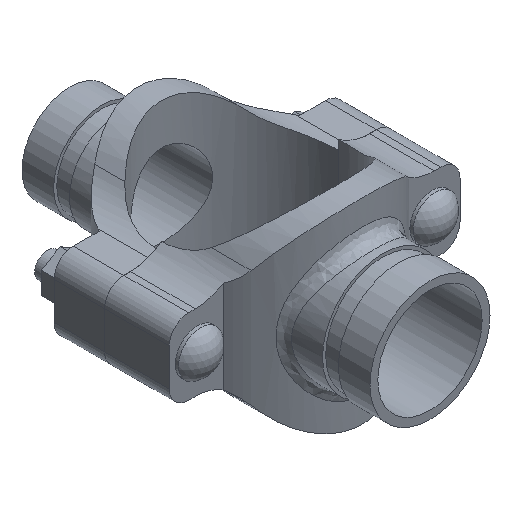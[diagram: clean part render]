
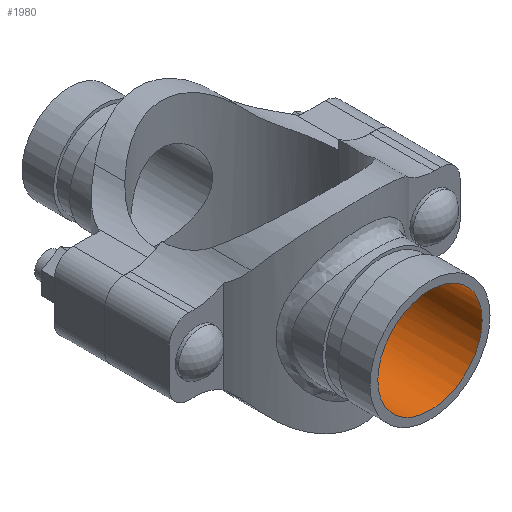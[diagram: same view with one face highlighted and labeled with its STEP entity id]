
A CAD part, isometric view. The second image highlights one B-rep face of the part: STEP entity #1980.
In plain terms, the highlighted cylindrical face has radius 26.194 mm (diameter 52.387 mm), a full revolution.
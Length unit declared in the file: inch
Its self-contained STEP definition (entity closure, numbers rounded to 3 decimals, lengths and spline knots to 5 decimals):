
#50=B_SPLINE_CURVE_WITH_KNOTS('',3,(#3968,#3969,#3970,#3971,#3972,#3973,
#3974,#3975,#3976,#3977,#3978,#3979,#3980,#3981,#3982,#3983,#3984,#3985,
#3986,#3987,#3988,#3989,#3990,#3991,#3992,#3993,#3994,#3995,#3996,#3997,
#3998,#3999,#4000,#4001,#4002,#4003,#4004,#4005,#4006,#4007,#4008,#4009,
#4010,#4011,#4012,#4013,#4014,#4015,#4016,#4017,#4018,#4019,#4020,#4021,
#4022,#4023,#4024,#4025,#4026,#4027,#4028,#4029,#4030,#4031,#4032,#4033),
 .UNSPECIFIED.,.T.,.F.,(4,2,2,2,2,2,2,2,2,2,2,2,2,2,2,2,2,2,2,2,2,2,2,2,
2,2,2,2,2,2,2,2,4),(0.,0.50978,1.01955,1.52933,
2.03911,2.54587,3.05263,3.5594,4.06616,
4.57293,5.07969,5.58646,6.09322,6.603,
7.11278,7.62255,8.13233,8.6421,9.15188,
9.66166,10.17143,10.6782,11.18496,11.69173,
12.19849,12.70526,13.21202,13.71879,14.22555,
14.73533,15.2451,15.75488,16.26466),
 .UNSPECIFIED.);
#95=CYLINDRICAL_SURFACE('',#2213,1.03125);
#212=FACE_OUTER_BOUND('',#334,.T.);
#334=EDGE_LOOP('',(#1588,#1589,#1590,#1591));
#484=LINE('',#3967,#632);
#632=VECTOR('',#2674,1.03125);
#730=CIRCLE('',#2214,1.03125);
#895=VERTEX_POINT('',#3964);
#896=VERTEX_POINT('',#3966);
#1140=EDGE_CURVE('',#895,#895,#730,.T.);
#1141=EDGE_CURVE('',#895,#896,#484,.T.);
#1142=EDGE_CURVE('',#896,#896,#50,.T.);
#1588=ORIENTED_EDGE('',*,*,#1140,.F.);
#1589=ORIENTED_EDGE('',*,*,#1141,.T.);
#1590=ORIENTED_EDGE('',*,*,#1142,.F.);
#1591=ORIENTED_EDGE('',*,*,#1141,.F.);
#1980=ADVANCED_FACE('',(#212),#95,.F.);
#2213=AXIS2_PLACEMENT_3D('',#3963,#2670,#2671);
#2214=AXIS2_PLACEMENT_3D('',#3965,#2672,#2673);
#2670=DIRECTION('center_axis',(0.,-1.,0.));
#2671=DIRECTION('ref_axis',(-1.,0.,0.));
#2672=DIRECTION('center_axis',(0.,-1.,0.));
#2673=DIRECTION('ref_axis',(-1.,0.,0.));
#2674=DIRECTION('',(0.,-1.,0.));
#3963=CARTESIAN_POINT('Origin',(0.,3.56,0.));
#3964=CARTESIAN_POINT('',(1.03125,3.56,0.));
#3965=CARTESIAN_POINT('Origin',(0.,3.56,0.));
#3966=CARTESIAN_POINT('',(1.03125,1.41387,0.));
#3967=CARTESIAN_POINT('',(1.03125,3.56,0.));
#3968=CARTESIAN_POINT('Ctrl Pts',(1.03125,1.41387,0.));
#3969=CARTESIAN_POINT('Ctrl Pts',(1.03125,1.41387,-0.0669));
#3970=CARTESIAN_POINT('Ctrl Pts',(1.02464,1.41876,-0.13527));
#3971=CARTESIAN_POINT('Ctrl Pts',(0.99766,1.43786,-0.26993));
#3972=CARTESIAN_POINT('Ctrl Pts',(0.9773,1.45202,-0.33622));
#3973=CARTESIAN_POINT('Ctrl Pts',(0.92428,1.48634,-0.46246));
#3974=CARTESIAN_POINT('Ctrl Pts',(0.89157,1.50647,-0.52254));
#3975=CARTESIAN_POINT('Ctrl Pts',(0.81654,1.54842,-0.63341));
#3976=CARTESIAN_POINT('Ctrl Pts',(0.7742,1.57021,-0.6842));
#3977=CARTESIAN_POINT('Ctrl Pts',(0.68447,1.61134,-0.77394));
#3978=CARTESIAN_POINT('Ctrl Pts',(0.63382,1.63225,-0.81623));
#3979=CARTESIAN_POINT('Ctrl Pts',(0.52291,1.67108,-0.89136));
#3980=CARTESIAN_POINT('Ctrl Pts',(0.46265,1.68899,-0.9242));
#3981=CARTESIAN_POINT('Ctrl Pts',(0.33601,1.71867,-0.97739));
#3982=CARTESIAN_POINT('Ctrl Pts',(0.26952,1.73045,-0.99778));
#3983=CARTESIAN_POINT('Ctrl Pts',(0.13476,1.74612,-1.02471));
#3984=CARTESIAN_POINT('Ctrl Pts',(0.0665,1.75,-1.03125));
#3985=CARTESIAN_POINT('Ctrl Pts',(-0.0665,1.75,-1.03125));
#3986=CARTESIAN_POINT('Ctrl Pts',(-0.13476,1.74612,-1.02471));
#3987=CARTESIAN_POINT('Ctrl Pts',(-0.26952,1.73045,-0.99778));
#3988=CARTESIAN_POINT('Ctrl Pts',(-0.33601,1.71867,-0.97739));
#3989=CARTESIAN_POINT('Ctrl Pts',(-0.46265,1.68899,-0.9242));
#3990=CARTESIAN_POINT('Ctrl Pts',(-0.52291,1.67108,-0.89136));
#3991=CARTESIAN_POINT('Ctrl Pts',(-0.63382,1.63225,-0.81623));
#3992=CARTESIAN_POINT('Ctrl Pts',(-0.68447,1.61134,-0.77394));
#3993=CARTESIAN_POINT('Ctrl Pts',(-0.7742,1.57021,-0.6842));
#3994=CARTESIAN_POINT('Ctrl Pts',(-0.81654,1.54842,-0.63341));
#3995=CARTESIAN_POINT('Ctrl Pts',(-0.89157,1.50647,-0.52254));
#3996=CARTESIAN_POINT('Ctrl Pts',(-0.92428,1.48634,-0.46246));
#3997=CARTESIAN_POINT('Ctrl Pts',(-0.9773,1.45202,-0.33622));
#3998=CARTESIAN_POINT('Ctrl Pts',(-0.99766,1.43786,-0.26993));
#3999=CARTESIAN_POINT('Ctrl Pts',(-1.02464,1.41876,-0.13527));
#4000=CARTESIAN_POINT('Ctrl Pts',(-1.03125,1.41387,-0.0669));
#4001=CARTESIAN_POINT('Ctrl Pts',(-1.03125,1.41387,0.0669));
#4002=CARTESIAN_POINT('Ctrl Pts',(-1.02464,1.41876,0.13527));
#4003=CARTESIAN_POINT('Ctrl Pts',(-0.99766,1.43786,0.26993));
#4004=CARTESIAN_POINT('Ctrl Pts',(-0.9773,1.45202,0.33622));
#4005=CARTESIAN_POINT('Ctrl Pts',(-0.92428,1.48634,0.46246));
#4006=CARTESIAN_POINT('Ctrl Pts',(-0.89157,1.50647,0.52254));
#4007=CARTESIAN_POINT('Ctrl Pts',(-0.81654,1.54842,0.63341));
#4008=CARTESIAN_POINT('Ctrl Pts',(-0.7742,1.57021,0.6842));
#4009=CARTESIAN_POINT('Ctrl Pts',(-0.68447,1.61134,0.77394));
#4010=CARTESIAN_POINT('Ctrl Pts',(-0.63382,1.63225,0.81623));
#4011=CARTESIAN_POINT('Ctrl Pts',(-0.52291,1.67108,0.89136));
#4012=CARTESIAN_POINT('Ctrl Pts',(-0.46265,1.68899,0.9242));
#4013=CARTESIAN_POINT('Ctrl Pts',(-0.33601,1.71867,0.97739));
#4014=CARTESIAN_POINT('Ctrl Pts',(-0.26952,1.73045,0.99778));
#4015=CARTESIAN_POINT('Ctrl Pts',(-0.13476,1.74612,1.02471));
#4016=CARTESIAN_POINT('Ctrl Pts',(-0.0665,1.75,1.03125));
#4017=CARTESIAN_POINT('Ctrl Pts',(0.0665,1.75,1.03125));
#4018=CARTESIAN_POINT('Ctrl Pts',(0.13476,1.74612,1.02471));
#4019=CARTESIAN_POINT('Ctrl Pts',(0.26952,1.73045,0.99778));
#4020=CARTESIAN_POINT('Ctrl Pts',(0.33601,1.71867,0.97739));
#4021=CARTESIAN_POINT('Ctrl Pts',(0.46265,1.68899,0.9242));
#4022=CARTESIAN_POINT('Ctrl Pts',(0.52291,1.67108,0.89136));
#4023=CARTESIAN_POINT('Ctrl Pts',(0.63382,1.63225,0.81623));
#4024=CARTESIAN_POINT('Ctrl Pts',(0.68447,1.61134,0.77394));
#4025=CARTESIAN_POINT('Ctrl Pts',(0.7742,1.57021,0.6842));
#4026=CARTESIAN_POINT('Ctrl Pts',(0.81654,1.54842,0.63341));
#4027=CARTESIAN_POINT('Ctrl Pts',(0.89157,1.50647,0.52254));
#4028=CARTESIAN_POINT('Ctrl Pts',(0.92428,1.48634,0.46246));
#4029=CARTESIAN_POINT('Ctrl Pts',(0.9773,1.45202,0.33622));
#4030=CARTESIAN_POINT('Ctrl Pts',(0.99766,1.43786,0.26993));
#4031=CARTESIAN_POINT('Ctrl Pts',(1.02464,1.41876,0.13527));
#4032=CARTESIAN_POINT('Ctrl Pts',(1.03125,1.41387,0.0669));
#4033=CARTESIAN_POINT('Ctrl Pts',(1.03125,1.41387,0.));
